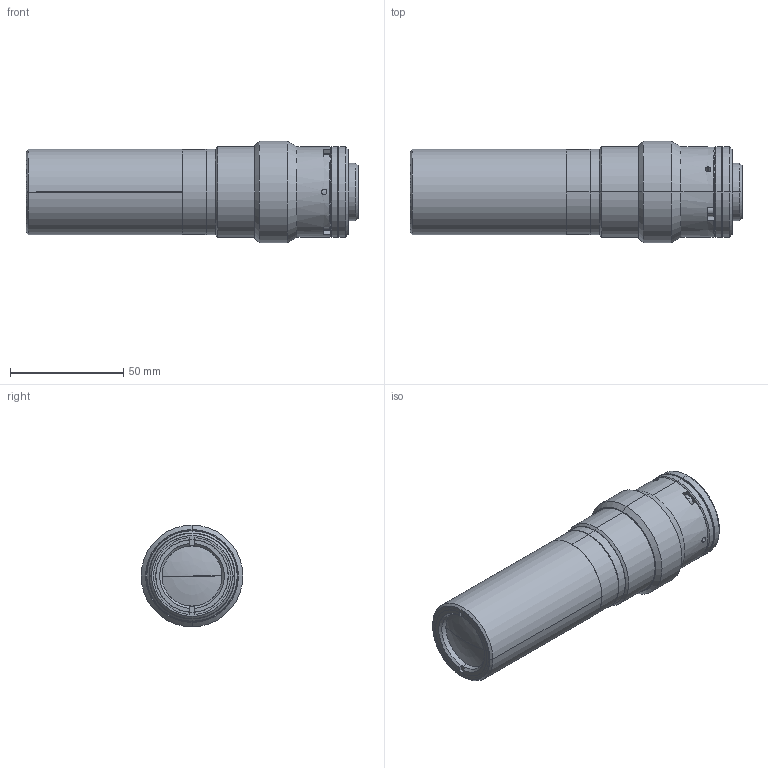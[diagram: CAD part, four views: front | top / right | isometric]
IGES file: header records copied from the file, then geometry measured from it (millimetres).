
Start section: SolidWorks IGES file using analytic representation for surfaces
Global section: file name: \\172.16.20.198\dati\R&D\01 archivio\DPXXXXX-X\DP31689-A_TC2MHRP016-C.igs; native system: SolidWorks 2021; preprocessor: SolidWorks 2021; author: lrizzotto; date: 220209.171814; units: millimetre
Bounding box: 146.81 x 45 x 45 mm (x, y, z)
Surface area: 27458 mm2 (no closed solid volume)
Topology: 0 solids, 0 shells, 97 faces, 2191 edges, 2190 vertices
Faces by surface type: revolution 62, bspline 35
